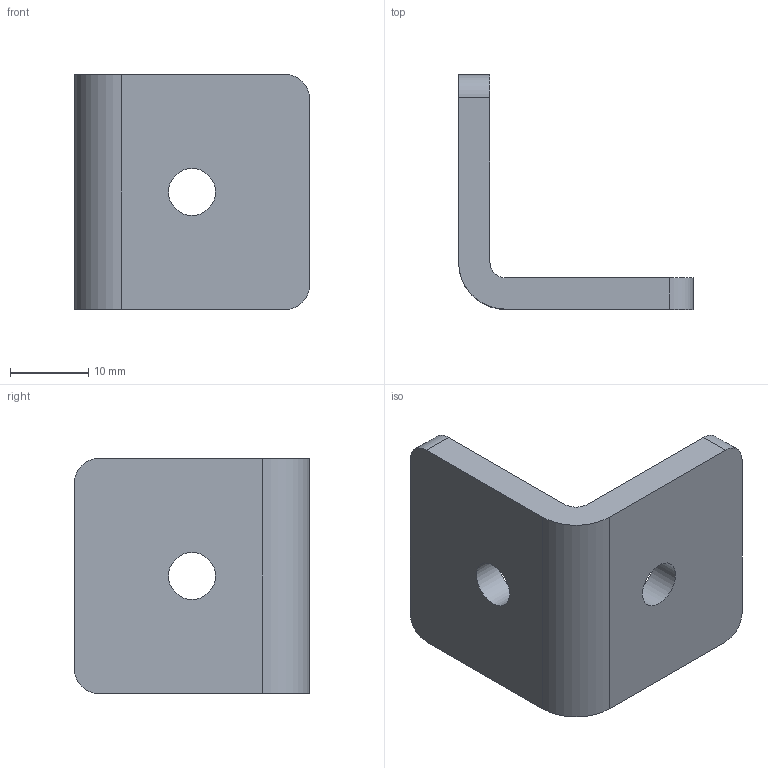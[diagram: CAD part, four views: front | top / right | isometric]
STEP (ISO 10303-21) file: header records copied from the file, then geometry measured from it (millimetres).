
FILE_DESCRIPTION( ( 'STEP AP203' ), '1' );
FILE_NAME( 'C:/Temp/Ganter_Step_05_03_2020/data/3_7/gn_967/gn_967_2/gn_967_2_l/Angle piece GN 967-30-30-L-2-ZB.stp', '2020-03-12T14:48:25', ( 'License CC BY-ND 4.0' ), ( 'CADENAS' ), ' ', 'PARTsolutions', ' ' );
FILE_SCHEMA( ( 'CONFIG_CONTROL_DESIGN' ) );
Length unit declared in the file: millimetre
Products named in the file (1): _Angle piece GN 967-30-30-L-2-ZB
Bounding box: 30 x 30 x 30 mm (x, y, z)
Volume: 6256.9 mm3; surface area: 3932.9 mm2
Topology: 1 solids, 1 shells, 16 faces, 42 edges, 28 vertices
Faces by surface type: cylinder 8, plane 8
Full cylindrical faces by diameter (mm): 6 x2
Entity records: 544 total; most frequent: DIRECTION 90, CARTESIAN_POINT 85, ORIENTED_EDGE 80, EDGE_CURVE 40, AXIS2_PLACEMENT_3D 33, VERTEX_POINT 28, LINE 24, VECTOR 24
